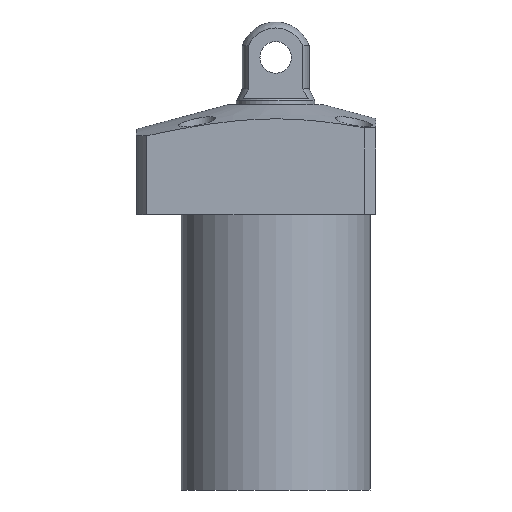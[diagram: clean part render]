
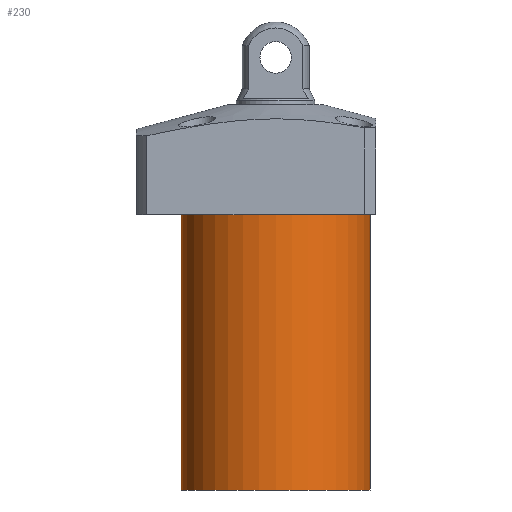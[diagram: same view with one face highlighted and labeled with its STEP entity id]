
A CAD part, front view. The second image highlights one B-rep face of the part: STEP entity #230.
In plain terms, the highlighted cylindrical face has radius 24 mm (diameter 48 mm), a partial arc.
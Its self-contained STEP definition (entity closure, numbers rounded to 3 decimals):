
#5 = CARTESIAN_POINT ( 'NONE',  ( 0., 0., -84. ) ) ;
#61 = CARTESIAN_POINT ( 'NONE',  ( 24., 0., -14. ) ) ;
#73 = ORIENTED_EDGE ( 'NONE', *, *, #795, .F. ) ;
#208 = VECTOR ( 'NONE', #1514, 1000. ) ;
#209 = DIRECTION ( 'NONE',  ( -1., 0., 0. ) ) ;
#230 = ADVANCED_FACE ( 'NONE', ( #1993 ), #2119, .T. ) ;
#288 = LINE ( 'NONE', #1700, #208 ) ;
#326 = AXIS2_PLACEMENT_3D ( 'NONE', #5, #547, #209 ) ;
#359 = CARTESIAN_POINT ( 'NONE',  ( 24., 0., -84. ) ) ;
#403 = EDGE_CURVE ( 'NONE', #1679, #2144, #288, .T. ) ;
#495 = CARTESIAN_POINT ( 'NONE',  ( 0., 0., -84. ) ) ;
#523 = AXIS2_PLACEMENT_3D ( 'NONE', #495, #1232, #1417 ) ;
#547 = DIRECTION ( 'NONE',  ( 0., 0., -1. ) ) ;
#583 = CARTESIAN_POINT ( 'NONE',  ( -24., 0., -14. ) ) ;
#729 = CIRCLE ( 'NONE', #933, 24. ) ;
#775 = CARTESIAN_POINT ( 'NONE',  ( 24., 0., -84. ) ) ;
#795 = EDGE_CURVE ( 'NONE', #1108, #1679, #985, .T. ) ;
#909 = ORIENTED_EDGE ( 'NONE', *, *, #403, .F. ) ;
#915 = CARTESIAN_POINT ( 'NONE',  ( -24., 0., -84. ) ) ;
#933 = AXIS2_PLACEMENT_3D ( 'NONE', #2109, #1749, #1942 ) ;
#985 = CIRCLE ( 'NONE', #326, 24. ) ;
#996 = EDGE_CURVE ( 'NONE', #1108, #1291, #2304, .T. ) ;
#1108 = VERTEX_POINT ( 'NONE', #359 ) ;
#1139 = ORIENTED_EDGE ( 'NONE', *, *, #1298, .T. ) ;
#1232 = DIRECTION ( 'NONE',  ( 0., 0., 1. ) ) ;
#1291 = VERTEX_POINT ( 'NONE', #61 ) ;
#1298 = EDGE_CURVE ( 'NONE', #1291, #2144, #729, .T. ) ;
#1417 = DIRECTION ( 'NONE',  ( 1., 0., 0. ) ) ;
#1514 = DIRECTION ( 'NONE',  ( 0., 0., 1. ) ) ;
#1525 = ORIENTED_EDGE ( 'NONE', *, *, #996, .T. ) ;
#1551 = DIRECTION ( 'NONE',  ( 0., 0., 1. ) ) ;
#1676 = EDGE_LOOP ( 'NONE', ( #909, #73, #1525, #1139 ) ) ;
#1679 = VERTEX_POINT ( 'NONE', #915 ) ;
#1700 = CARTESIAN_POINT ( 'NONE',  ( -24., 0., -84. ) ) ;
#1749 = DIRECTION ( 'NONE',  ( 0., 0., -1. ) ) ;
#1942 = DIRECTION ( 'NONE',  ( 1., 0., 0. ) ) ;
#1963 = VECTOR ( 'NONE', #1551, 1000. ) ;
#1993 = FACE_OUTER_BOUND ( 'NONE', #1676, .T. ) ;
#2109 = CARTESIAN_POINT ( 'NONE',  ( 0., 0., -14. ) ) ;
#2119 = CYLINDRICAL_SURFACE ( 'NONE', #523, 24. ) ;
#2144 = VERTEX_POINT ( 'NONE', #583 ) ;
#2304 = LINE ( 'NONE', #775, #1963 ) ;
